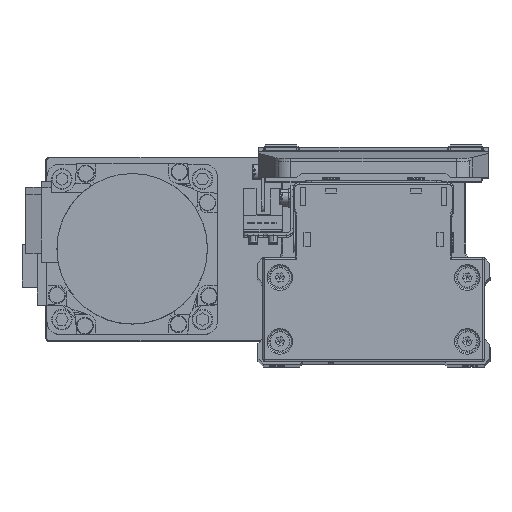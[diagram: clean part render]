
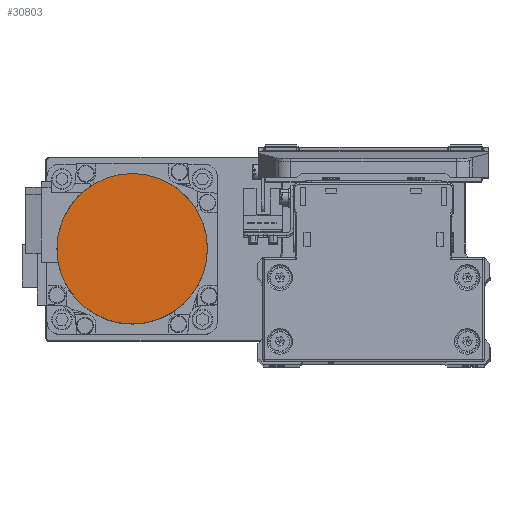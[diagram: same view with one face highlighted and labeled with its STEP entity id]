
A CAD part, top view. The second image highlights one B-rep face of the part: STEP entity #30803.
In plain terms, the highlighted planar face has unit normal (0, 0, 1) as drawn and (0, 0, -1) by its records, which use the part's own axes.
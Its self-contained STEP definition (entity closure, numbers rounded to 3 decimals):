
#115 = VERTEX_POINT ( 'NONE', #5802 ) ;
#629 = AXIS2_PLACEMENT_3D ( 'NONE', #11490, #24058, #36602 ) ;
#710 = CARTESIAN_POINT ( 'NONE',  ( 0., 0., -109.7 ) ) ;
#794 = ORIENTED_EDGE ( 'NONE', *, *, #2281, .F. ) ;
#1280 = CIRCLE ( 'NONE', #24297, 26.5 ) ;
#2281 = EDGE_CURVE ( 'NONE', #115, #12678, #18380, .T. ) ;
#5802 = CARTESIAN_POINT ( 'NONE',  ( 26.5, 0., -109.7 ) ) ;
#11490 = CARTESIAN_POINT ( 'NONE',  ( 0., 0., -109.7 ) ) ;
#12076 = DIRECTION ( 'NONE',  ( -1., 0., 0. ) ) ;
#12678 = VERTEX_POINT ( 'NONE', #36183 ) ;
#13277 = DIRECTION ( 'NONE',  ( 0., 0., 1. ) ) ;
#16363 = FACE_OUTER_BOUND ( 'NONE', #38010, .T. ) ;
#17960 = EDGE_CURVE ( 'NONE', #12678, #115, #1280, .T. ) ;
#18380 = CIRCLE ( 'NONE', #629, 26.5 ) ;
#24058 = DIRECTION ( 'NONE',  ( 0., 0., 1. ) ) ;
#24297 = AXIS2_PLACEMENT_3D ( 'NONE', #27732, #40291, #12076 ) ;
#25838 = DIRECTION ( 'NONE',  ( 1., 0., 0. ) ) ;
#27732 = CARTESIAN_POINT ( 'NONE',  ( 0., 0., -109.7 ) ) ;
#28928 = PLANE ( 'NONE',  #29550 ) ;
#29550 = AXIS2_PLACEMENT_3D ( 'NONE', #710, #13277, #25838 ) ;
#30803 = ADVANCED_FACE ( 'NONE', ( #16363 ), #28928, .F. ) ;
#36183 = CARTESIAN_POINT ( 'NONE',  ( -26.5, 0., -109.7 ) ) ;
#36602 = DIRECTION ( 'NONE',  ( 1., 0., 0. ) ) ;
#38010 = EDGE_LOOP ( 'NONE', ( #40523, #794 ) ) ;
#40291 = DIRECTION ( 'NONE',  ( 0., 0., 1. ) ) ;
#40523 = ORIENTED_EDGE ( 'NONE', *, *, #17960, .F. ) ;
